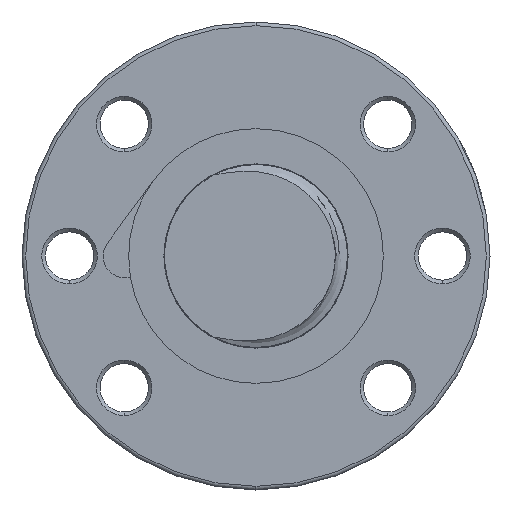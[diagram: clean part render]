
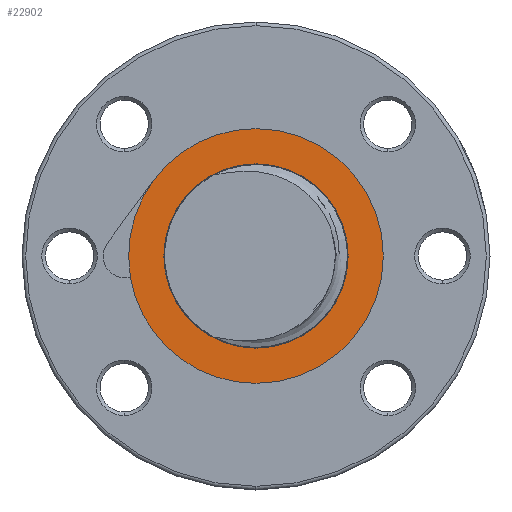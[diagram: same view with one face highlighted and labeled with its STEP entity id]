
A CAD part, left-side view. The second image highlights one B-rep face of the part: STEP entity #22902.
In plain terms, the highlighted planar face has unit normal (-1, 0, 0).
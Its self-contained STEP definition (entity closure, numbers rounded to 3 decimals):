
#22382 = EDGE_CURVE ( 'NONE', #22946, #22383, #24283, .T. ) ;
#22383 = VERTEX_POINT ( 'NONE', #24279 ) ;
#22657 = VERTEX_POINT ( 'NONE', #24837 ) ;
#22659 = EDGE_CURVE ( 'NONE', #22657, #22660, #24835, .T. ) ;
#22660 = VERTEX_POINT ( 'NONE', #24836 ) ;
#22706 = EDGE_CURVE ( 'NONE', #22660, #22657, #24703, .T. ) ;
#22742 = EDGE_CURVE ( 'NONE', #22816, #22945, #25096, .T. ) ;
#22816 = VERTEX_POINT ( 'NONE', #24996 ) ;
#22858 = ORIENTED_EDGE ( 'NONE', *, *, #22944, .T. ) ;
#22859 = ORIENTED_EDGE ( 'NONE', *, *, #22382, .T. ) ;
#22860 = EDGE_LOOP ( 'NONE', ( #22861, #22862 ) ) ;
#22861 = ORIENTED_EDGE ( 'NONE', *, *, #22706, .F. ) ;
#22862 = ORIENTED_EDGE ( 'NONE', *, *, #22659, .F. ) ;
#22878 = ORIENTED_EDGE ( 'NONE', *, *, #22742, .T. ) ;
#22902 = ADVANCED_FACE ( 'NONE', ( #25395, #25393 ), #25349, .T. ) ;
#22903 = EDGE_LOOP ( 'NONE', ( #22904, #22878, #22858, #22859 ) ) ;
#22904 = ORIENTED_EDGE ( 'NONE', *, *, #22905, .T. ) ;
#22905 = EDGE_CURVE ( 'NONE', #22383, #22816, #25344, .T. ) ;
#22944 = EDGE_CURVE ( 'NONE', #22945, #22946, #25176, .T. ) ;
#22945 = VERTEX_POINT ( 'NONE', #25171 ) ;
#22946 = VERTEX_POINT ( 'NONE', #25170 ) ;
#24279 = CARTESIAN_POINT ( 'NONE',  ( -86.8, 14.028, 10.32 ) ) ;
#24280 = DIRECTION ( 'NONE',  ( 0., 0., 1. ) ) ;
#24281 = DIRECTION ( 'NONE',  ( -1., 0., 0. ) ) ;
#24282 = AXIS2_PLACEMENT_3D ( 'NONE', #24288, #24281, #24280 ) ;
#24283 = CIRCLE ( 'NONE', #24282, 17.416 ) ;
#24288 = CARTESIAN_POINT ( 'NONE',  ( -86.8, 0., 0. ) ) ;
#24699 = DIRECTION ( 'NONE',  ( 0., 0., 1. ) ) ;
#24700 = DIRECTION ( 'NONE',  ( -1., 0., 0. ) ) ;
#24701 = CARTESIAN_POINT ( 'NONE',  ( -86.8, 0., 0. ) ) ;
#24702 = AXIS2_PLACEMENT_3D ( 'NONE', #24701, #24700, #24699 ) ;
#24703 = CIRCLE ( 'NONE', #24702, 12.6 ) ;
#24831 = DIRECTION ( 'NONE',  ( 0., 0., 1. ) ) ;
#24832 = DIRECTION ( 'NONE',  ( -1., 0., 0. ) ) ;
#24833 = CARTESIAN_POINT ( 'NONE',  ( -86.8, 0., 0. ) ) ;
#24834 = AXIS2_PLACEMENT_3D ( 'NONE', #24833, #24832, #24831 ) ;
#24835 = CIRCLE ( 'NONE', #24834, 12.6 ) ;
#24836 = CARTESIAN_POINT ( 'NONE',  ( -86.8, 0., 12.6 ) ) ;
#24837 = CARTESIAN_POINT ( 'NONE',  ( -86.8, 0., -12.6 ) ) ;
#24996 = CARTESIAN_POINT ( 'NONE',  ( -86.8, 17.174, -2.891 ) ) ;
#25092 = DIRECTION ( 'NONE',  ( 0., 0., 1. ) ) ;
#25093 = DIRECTION ( 'NONE',  ( -1., 0., 0. ) ) ;
#25094 = CARTESIAN_POINT ( 'NONE',  ( -86.8, 0., 0. ) ) ;
#25095 = AXIS2_PLACEMENT_3D ( 'NONE', #25094, #25093, #25092 ) ;
#25096 = CIRCLE ( 'NONE', #25095, 17.416 ) ;
#25170 = CARTESIAN_POINT ( 'NONE',  ( -86.8, 0., 17.416 ) ) ;
#25171 = CARTESIAN_POINT ( 'NONE',  ( -86.8, 0., -17.416 ) ) ;
#25172 = DIRECTION ( 'NONE',  ( 0., 0., 1. ) ) ;
#25173 = DIRECTION ( 'NONE',  ( -1., 0., 0. ) ) ;
#25174 = AXIS2_PLACEMENT_3D ( 'NONE', #25182, #25173, #25172 ) ;
#25176 = CIRCLE ( 'NONE', #25174, 17.416 ) ;
#25182 = CARTESIAN_POINT ( 'NONE',  ( -86.8, 0., 0. ) ) ;
#25341 = DIRECTION ( 'NONE',  ( 0., 0., 1. ) ) ;
#25342 = DIRECTION ( 'NONE',  ( -1., 0., 0. ) ) ;
#25343 = AXIS2_PLACEMENT_3D ( 'NONE', #25350, #25342, #25341 ) ;
#25344 = CIRCLE ( 'NONE', #25343, 17.416 ) ;
#25345 = DIRECTION ( 'NONE',  ( 0., 0., 1. ) ) ;
#25346 = DIRECTION ( 'NONE',  ( -1., 0., 0. ) ) ;
#25347 = CARTESIAN_POINT ( 'NONE',  ( -86.8, 0., 12.6 ) ) ;
#25348 = AXIS2_PLACEMENT_3D ( 'NONE', #25347, #25346, #25345 ) ;
#25349 = PLANE ( 'NONE',  #25348 ) ;
#25350 = CARTESIAN_POINT ( 'NONE',  ( -86.8, 0., 0. ) ) ;
#25393 = FACE_BOUND ( 'NONE', #22860, .T. ) ;
#25395 = FACE_OUTER_BOUND ( 'NONE', #22903, .T. ) ;
